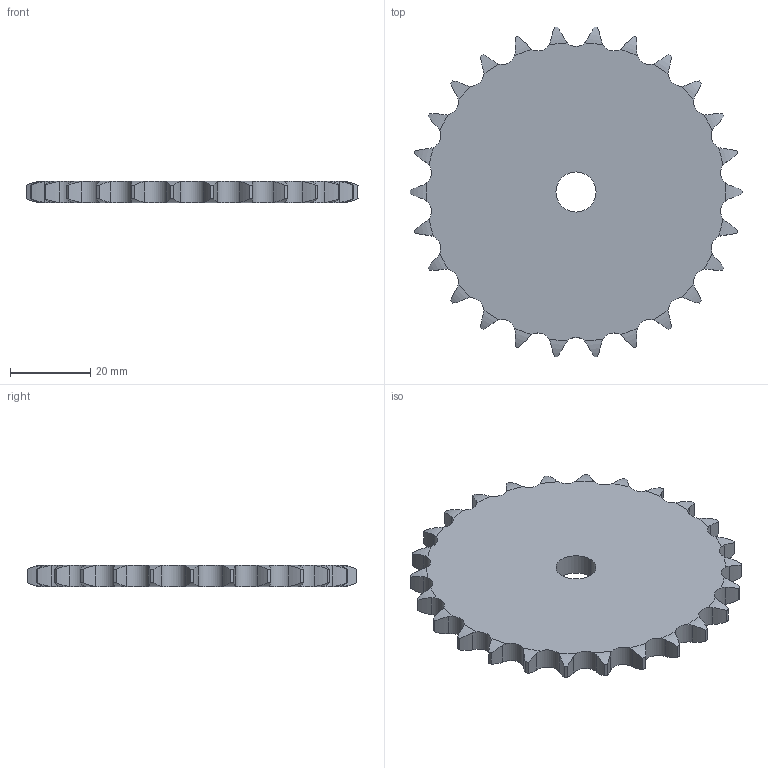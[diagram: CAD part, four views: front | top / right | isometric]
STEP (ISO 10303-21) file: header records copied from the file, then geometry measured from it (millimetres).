
FILE_DESCRIPTION((''),'2;1');
FILE_NAME('500-101-0026_PRT','2021-02-12T',('Brieden'),('Brieden'),'PRO/ENGINEER BY PARAMETRIC TECHNOLOGY CORPORATION, 2010160','PRO/ENGINEER BY PARAMETRIC TECHNOLOGY CORPORATION, 2010160','');
FILE_SCHEMA(('AUTOMOTIVE_DESIGN { 1 0 10303 214 1 1 1 1 }'));
Length unit declared in the file: millimetre
Products named in the file (1): 500-101-0026_PRT
Bounding box: 82.78 x 82.27 x 5.3 mm (x, y, z)
Volume: 23673.1 mm3; surface area: 11025.4 mm2
Topology: 1 solids, 1 shells, 160 faces, 474 edges, 316 vertices
Faces by surface type: cylinder 106, torus 52, plane 2
Entity records: 7736 total; most frequent: CARTESIAN_POINT 2211, ORIENTED_EDGE 948, DIRECTION 746, PRESENTATION_STYLE_ASSIGNMENT 475, STYLED_ITEM 475, CURVE_STYLE 474, EDGE_CURVE 474, AXIS2_PLACEMENT_3D 320
